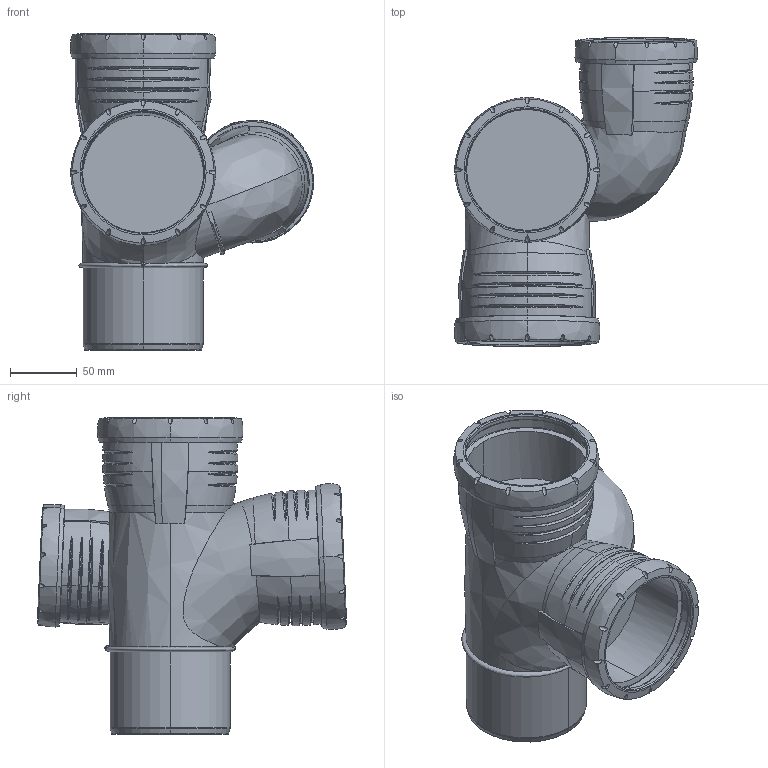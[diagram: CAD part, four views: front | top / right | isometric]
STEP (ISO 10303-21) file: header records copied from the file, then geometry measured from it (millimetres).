
FILE_DESCRIPTION(/* description */ (''),/* implementation_level */ '2;1');
FILE_NAME(/* name */ 'H:\Geberit-Teile\Export\Silent\stp\393464.stp',/* time_stamp */ '2017-03-30T11:40:30+02:00',/* author */ ('seihe2'),/* organization */ (''),/* preprocessor_version */ 'ST-DEVELOPER v15.2',/* originating_system */ 'Autodesk Inventor 2014',/* authorisation */ '');
FILE_SCHEMA (('AUTOMOTIVE_DESIGN { 1 0 10303 214 3 1 1 }'));
Products named in the file (1): 393464
Bounding box: 182.79 x 232.09 x 237.95 mm (x, y, z)
Volume: 1076716.3 mm3; surface area: 288092.1 mm2
Topology: 1 solids, 1 shells, 561 faces, 1521 edges, 932 vertices
Faces by surface type: bspline 257, cone 113, cylinder 75, plane 68, torus 44, sphere 4
Entity records: 37707 total; most frequent: CARTESIAN_POINT 25157, ORIENTED_EDGE 2994, DIRECTION 1974, EDGE_CURVE 1497, VERTEX_POINT 931, AXIS2_PLACEMENT_3D 894, B_SPLINE_CURVE_WITH_KNOTS 690, CIRCLE 583
